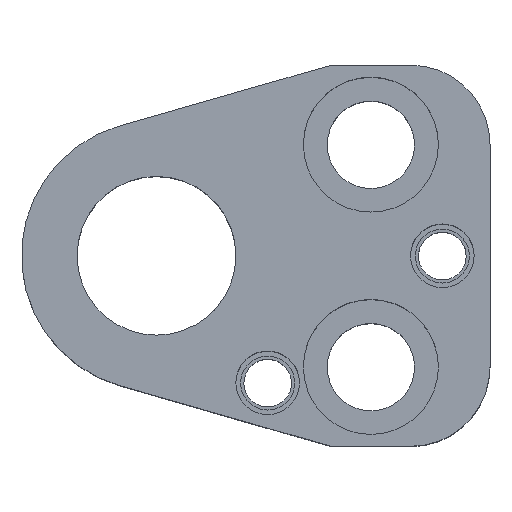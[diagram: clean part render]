
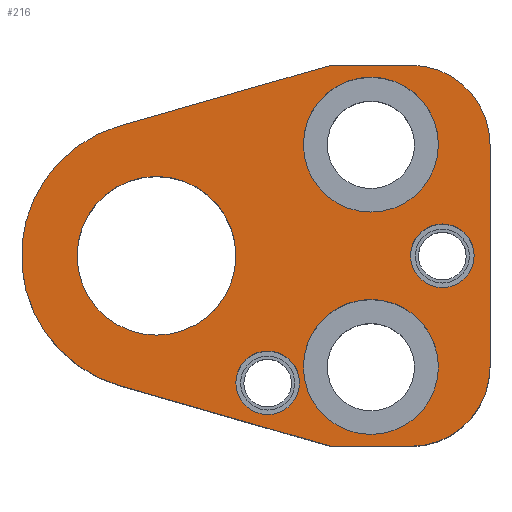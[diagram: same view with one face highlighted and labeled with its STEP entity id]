
A CAD part, top view. The second image highlights one B-rep face of the part: STEP entity #216.
In plain terms, the highlighted planar face has unit normal (0, 0, 1).
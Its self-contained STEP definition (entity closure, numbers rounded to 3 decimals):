
#104=FACE_BOUND('',#309,.T.);
#105=FACE_BOUND('',#310,.T.);
#106=FACE_BOUND('',#311,.T.);
#107=FACE_BOUND('',#312,.T.);
#108=FACE_BOUND('',#313,.T.);
#109=FACE_BOUND('',#314,.T.);
#148=CIRCLE('',#832,10.);
#150=CIRCLE('',#836,10.);
#160=CIRCLE('',#852,8.5);
#162=CIRCLE('',#855,8.5);
#164=CIRCLE('',#859,8.5);
#166=CIRCLE('',#862,8.5);
#168=CIRCLE('',#866,17.);
#169=CIRCLE('',#867,4.);
#170=CIRCLE('',#868,4.);
#171=CIRCLE('',#869,4.);
#172=CIRCLE('',#870,4.);
#173=CIRCLE('',#871,10.);
#174=CIRCLE('',#872,10.);
#216=ADVANCED_FACE('',(#104,#105,#106,#107,#108,#109),#248,.T.);
#248=PLANE('',#873);
#309=EDGE_LOOP('',(#409,#410,#411,#412,#413,#414,#415,#416));
#310=EDGE_LOOP('',(#417,#418));
#311=EDGE_LOOP('',(#419,#420));
#312=EDGE_LOOP('',(#421,#422));
#313=EDGE_LOOP('',(#423,#424));
#314=EDGE_LOOP('',(#425,#426));
#409=ORIENTED_EDGE('',*,*,#627,.T.);
#410=ORIENTED_EDGE('',*,*,#631,.T.);
#411=ORIENTED_EDGE('',*,*,#634,.T.);
#412=ORIENTED_EDGE('',*,*,#637,.T.);
#413=ORIENTED_EDGE('',*,*,#640,.T.);
#414=ORIENTED_EDGE('',*,*,#666,.T.);
#415=ORIENTED_EDGE('',*,*,#667,.T.);
#416=ORIENTED_EDGE('',*,*,#668,.T.);
#417=ORIENTED_EDGE('',*,*,#669,.F.);
#418=ORIENTED_EDGE('',*,*,#670,.F.);
#419=ORIENTED_EDGE('',*,*,#671,.F.);
#420=ORIENTED_EDGE('',*,*,#672,.F.);
#421=ORIENTED_EDGE('',*,*,#664,.F.);
#422=ORIENTED_EDGE('',*,*,#660,.F.);
#423=ORIENTED_EDGE('',*,*,#658,.F.);
#424=ORIENTED_EDGE('',*,*,#654,.F.);
#425=ORIENTED_EDGE('',*,*,#673,.T.);
#426=ORIENTED_EDGE('',*,*,#674,.T.);
#558=VERTEX_POINT('',#1171);
#559=VERTEX_POINT('',#1173);
#562=VERTEX_POINT('',#1180);
#564=VERTEX_POINT('',#1186);
#566=VERTEX_POINT('',#1192);
#568=VERTEX_POINT('',#1198);
#577=VERTEX_POINT('',#1227);
#578=VERTEX_POINT('',#1228);
#581=VERTEX_POINT('',#1240);
#582=VERTEX_POINT('',#1241);
#585=VERTEX_POINT('',#1253);
#586=VERTEX_POINT('',#1255);
#587=VERTEX_POINT('',#1258);
#588=VERTEX_POINT('',#1259);
#589=VERTEX_POINT('',#1262);
#590=VERTEX_POINT('',#1263);
#591=VERTEX_POINT('',#1266);
#592=VERTEX_POINT('',#1267);
#627=EDGE_CURVE('',#559,#558,#731,.T.);
#631=EDGE_CURVE('',#558,#562,#148,.T.);
#634=EDGE_CURVE('',#562,#564,#736,.T.);
#637=EDGE_CURVE('',#564,#566,#150,.T.);
#640=EDGE_CURVE('',#566,#568,#740,.T.);
#654=EDGE_CURVE('',#577,#578,#160,.T.);
#658=EDGE_CURVE('',#578,#577,#162,.T.);
#660=EDGE_CURVE('',#581,#582,#164,.T.);
#664=EDGE_CURVE('',#582,#581,#166,.T.);
#666=EDGE_CURVE('',#568,#585,#750,.T.);
#667=EDGE_CURVE('',#585,#586,#168,.T.);
#668=EDGE_CURVE('',#586,#559,#751,.T.);
#669=EDGE_CURVE('',#587,#588,#169,.T.);
#670=EDGE_CURVE('',#588,#587,#170,.T.);
#671=EDGE_CURVE('',#589,#590,#171,.T.);
#672=EDGE_CURVE('',#590,#589,#172,.T.);
#673=EDGE_CURVE('',#591,#592,#173,.T.);
#674=EDGE_CURVE('',#592,#591,#174,.T.);
#731=LINE('',#1172,#781);
#736=LINE('',#1187,#786);
#740=LINE('',#1199,#790);
#750=LINE('',#1252,#800);
#751=LINE('',#1256,#801);
#781=VECTOR('',#929,1.);
#786=VECTOR('',#942,1.);
#790=VECTOR('',#954,1.);
#800=VECTOR('',#1018,1.);
#801=VECTOR('',#1021,1.);
#832=AXIS2_PLACEMENT_3D('',#1181,#935,#936);
#836=AXIS2_PLACEMENT_3D('',#1193,#947,#948);
#852=AXIS2_PLACEMENT_3D('',#1226,#986,#987);
#855=AXIS2_PLACEMENT_3D('',#1235,#994,#995);
#859=AXIS2_PLACEMENT_3D('',#1239,#1002,#1003);
#862=AXIS2_PLACEMENT_3D('',#1248,#1010,#1011);
#866=AXIS2_PLACEMENT_3D('',#1254,#1019,#1020);
#867=AXIS2_PLACEMENT_3D('',#1257,#1022,#1023);
#868=AXIS2_PLACEMENT_3D('',#1260,#1024,#1025);
#869=AXIS2_PLACEMENT_3D('',#1261,#1026,#1027);
#870=AXIS2_PLACEMENT_3D('',#1264,#1028,#1029);
#871=AXIS2_PLACEMENT_3D('',#1265,#1030,#1031);
#872=AXIS2_PLACEMENT_3D('',#1268,#1032,#1033);
#873=AXIS2_PLACEMENT_3D('',#1269,#1034,#1035);
#929=DIRECTION('',(1.,0.,0.));
#935=DIRECTION('',(0.,0.,1.));
#936=DIRECTION('',(-0.707,0.707,0.));
#942=DIRECTION('',(0.,1.,0.));
#947=DIRECTION('',(0.,0.,1.));
#948=DIRECTION('',(-0.707,-0.707,0.));
#954=DIRECTION('',(-1.,0.,0.));
#986=DIRECTION('',(0.,0.,1.));
#987=DIRECTION('',(-1.,0.,0.));
#994=DIRECTION('',(0.,0.,1.));
#995=DIRECTION('',(1.,0.,0.));
#1002=DIRECTION('',(0.,0.,1.));
#1003=DIRECTION('',(-1.,0.,0.));
#1010=DIRECTION('',(0.,0.,1.));
#1011=DIRECTION('',(1.,0.,0.));
#1018=DIRECTION('',(-0.961,-0.276,0.));
#1019=DIRECTION('',(0.,0.,1.));
#1020=DIRECTION('',(1.,0.,0.));
#1021=DIRECTION('',(0.961,-0.276,0.));
#1022=DIRECTION('',(0.,0.,1.));
#1023=DIRECTION('',(1.,0.,0.));
#1024=DIRECTION('',(0.,0.,1.));
#1025=DIRECTION('',(-1.,0.,0.));
#1026=DIRECTION('',(0.,0.,1.));
#1027=DIRECTION('',(1.,0.,0.));
#1028=DIRECTION('',(0.,0.,1.));
#1029=DIRECTION('',(-1.,0.,0.));
#1030=DIRECTION('',(0.,0.,-1.));
#1031=DIRECTION('',(-1.,0.,0.));
#1032=DIRECTION('',(0.,0.,-1.));
#1033=DIRECTION('',(1.,0.,0.));
#1034=DIRECTION('',(0.,0.,1.));
#1035=DIRECTION('',(0.961,-0.276,0.));
#1171=CARTESIAN_POINT('',(32.,-24.,35.));
#1172=CARTESIAN_POINT('',(22.,-24.,35.));
#1173=CARTESIAN_POINT('',(22.,-24.,35.));
#1180=CARTESIAN_POINT('',(42.,-14.,35.));
#1181=CARTESIAN_POINT('',(32.,-14.,35.));
#1186=CARTESIAN_POINT('',(42.,14.,35.));
#1187=CARTESIAN_POINT('',(42.,14.,35.));
#1192=CARTESIAN_POINT('',(32.,24.,35.));
#1193=CARTESIAN_POINT('',(32.,14.,35.));
#1198=CARTESIAN_POINT('',(22.,24.,35.));
#1199=CARTESIAN_POINT('',(22.,24.,35.));
#1226=CARTESIAN_POINT('',(27.,14.,35.));
#1227=CARTESIAN_POINT('',(27.,5.5,35.));
#1228=CARTESIAN_POINT('',(27.,22.5,35.));
#1235=CARTESIAN_POINT('',(27.,14.,35.));
#1239=CARTESIAN_POINT('',(27.,-14.,35.));
#1240=CARTESIAN_POINT('',(27.,-22.5,35.));
#1241=CARTESIAN_POINT('',(27.,-5.5,35.));
#1248=CARTESIAN_POINT('',(27.,-14.,35.));
#1252=CARTESIAN_POINT('',(22.,24.,35.));
#1253=CARTESIAN_POINT('',(-4.69,16.34,35.));
#1254=CARTESIAN_POINT('',(0.,0.,35.));
#1255=CARTESIAN_POINT('',(-4.69,-16.34,35.));
#1256=CARTESIAN_POINT('',(22.,-24.,35.));
#1257=CARTESIAN_POINT('',(36.,0.,35.));
#1258=CARTESIAN_POINT('',(36.,4.,35.));
#1259=CARTESIAN_POINT('',(36.,-4.,35.));
#1260=CARTESIAN_POINT('',(36.,0.,35.));
#1261=CARTESIAN_POINT('',(14.,-16.,35.));
#1262=CARTESIAN_POINT('',(14.,-12.,35.));
#1263=CARTESIAN_POINT('',(14.,-20.,35.));
#1264=CARTESIAN_POINT('',(14.,-16.,35.));
#1265=CARTESIAN_POINT('',(0.,0.,35.));
#1266=CARTESIAN_POINT('',(0.,10.,35.));
#1267=CARTESIAN_POINT('',(0.,-10.,35.));
#1268=CARTESIAN_POINT('',(0.,0.,35.));
#1269=CARTESIAN_POINT('',(22.,-24.,35.));
